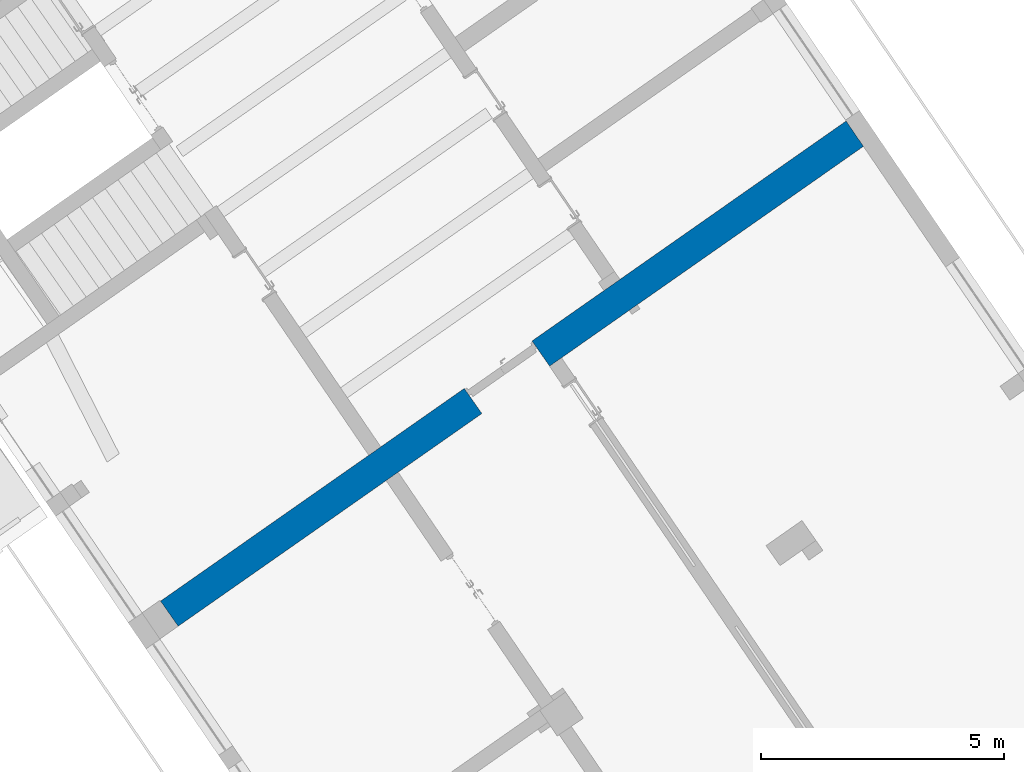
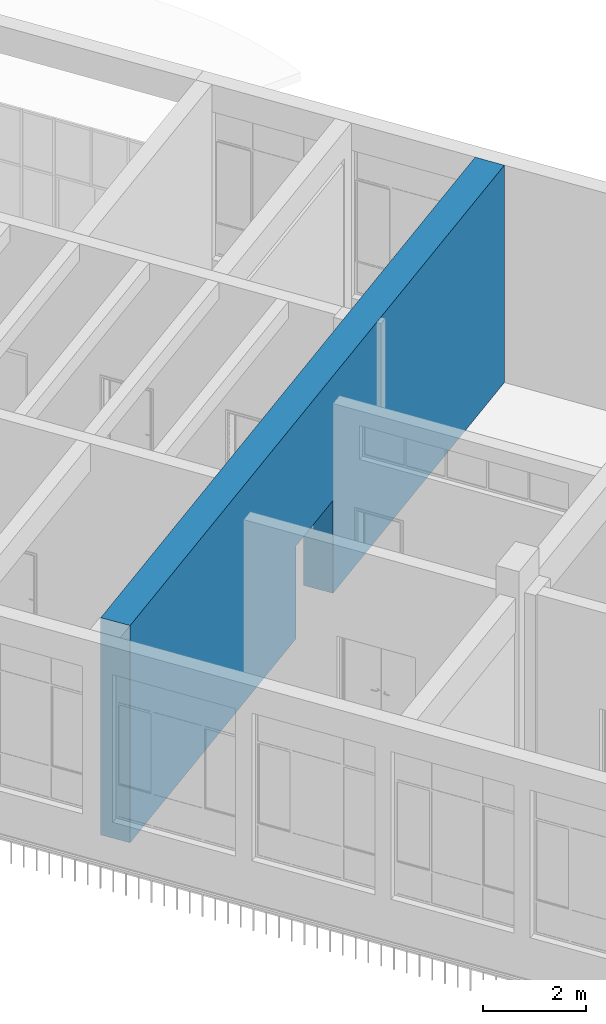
# One storey, part 70 of 157: 1 wall, 1 opening.
"""IFC2X3 building model written with IfcOpenShell, lengths in millimetres."""

from ifc_helpers import new_model, entity, si_unit, converted_unit, derived_unit, direction, frame, frame_2d, origin, place, context, subcontext, project, spatial, polyline, rectangle, outline, extrude, material, layer, layer_set, layer_usage, type_object, element, save


model = new_model("IFC2X3")

# Units and contexts
model_context = context("Model", 3, precision=0.01, world=origin(), true_north=direction((6.123031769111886e-17, 1.0)))
body_context = subcontext(model_context, "Body", "Model", "MODEL_VIEW")
ifc_project = project(units=[si_unit("LENGTHUNIT", "METRE", prefix="MILLI"), si_unit("AREAUNIT", "SQUARE_METRE"), si_unit("VOLUMEUNIT", "CUBIC_METRE"), converted_unit("PLANEANGLEUNIT", "DEGREE", entity("IfcRatioMeasure", 0.017453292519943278), si_unit("PLANEANGLEUNIT", "RADIAN"), dimensions=[0, 0, 0, 0, 0, 0, 0]), si_unit("MASSUNIT", "GRAM", prefix="KILO"), derived_unit("MASSDENSITYUNIT", [(si_unit("MASSUNIT", "GRAM", prefix="KILO"), 1), (si_unit("LENGTHUNIT", "METRE"), -3)]), derived_unit("MOMENTOFINERTIAUNIT", [(si_unit("LENGTHUNIT", "METRE"), 4)]), si_unit("TIMEUNIT", "SECOND"), si_unit("FREQUENCYUNIT", "HERTZ"), si_unit("THERMODYNAMICTEMPERATUREUNIT", "DEGREE_CELSIUS"), derived_unit("THERMALTRANSMITTANCEUNIT", [(si_unit("MASSUNIT", "GRAM", prefix="KILO"), 1), (si_unit("THERMODYNAMICTEMPERATUREUNIT", "KELVIN"), -1), (si_unit("TIMEUNIT", "SECOND"), -3)]), derived_unit("THERMALCONDUCTANCEUNIT", [(si_unit("MASSUNIT", "GRAM", prefix="KILO"), 1), (si_unit("LENGTHUNIT", "METRE"), 1), (si_unit("THERMODYNAMICTEMPERATUREUNIT", "KELVIN"), -1), (si_unit("TIMEUNIT", "SECOND"), -3)]), derived_unit("VOLUMETRICFLOWRATEUNIT", [(si_unit("LENGTHUNIT", "METRE"), 3), (si_unit("TIMEUNIT", "SECOND"), -1)]), derived_unit("MASSFLOWRATEUNIT", [(si_unit("MASSUNIT", "GRAM", prefix="KILO"), 1), (si_unit("TIMEUNIT", "SECOND"), -1)]), derived_unit("ROTATIONALFREQUENCYUNIT", [(si_unit("TIMEUNIT", "SECOND"), -1)]), si_unit("ELECTRICCURRENTUNIT", "AMPERE"), si_unit("ELECTRICVOLTAGEUNIT", "VOLT"), si_unit("POWERUNIT", "WATT"), converted_unit("FORCEUNIT", "KIP", entity("IfcRatioMeasure", 2.088543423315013e-05), si_unit("FORCEUNIT", "NEWTON"), dimensions=[1, 1, -2, 0, 0, 0, 0]), si_unit("ILLUMINANCEUNIT", "LUX"), si_unit("LUMINOUSFLUXUNIT", "LUMEN"), si_unit("LUMINOUSINTENSITYUNIT", "CANDELA"), derived_unit("USERDEFINED", [(si_unit("MASSUNIT", "GRAM", prefix="KILO"), -1), (si_unit("LENGTHUNIT", "METRE"), -2), (si_unit("TIMEUNIT", "SECOND"), 3), (si_unit("LUMINOUSFLUXUNIT", "LUMEN"), 1)]), derived_unit("USERDEFINED", [(si_unit("MASSUNIT", "GRAM", prefix="KILO"), 1), (si_unit("LENGTHUNIT", "METRE"), 3), (si_unit("TIMEUNIT", "SECOND"), -3), (si_unit("ELECTRICCURRENTUNIT", "AMPERE"), -2)]), derived_unit("USERDEFINED", [(si_unit("LENGTHUNIT", "METRE"), 2), (si_unit("TIMEUNIT", "SECOND"), -2)]), derived_unit("SOUNDPOWERUNIT", [(si_unit("MASSUNIT", "GRAM", prefix="KILO"), 1), (si_unit("LENGTHUNIT", "METRE"), 2), (si_unit("TIMEUNIT", "SECOND"), -3)]), derived_unit("SOUNDPRESSUREUNIT", [(si_unit("MASSUNIT", "GRAM", prefix="KILO"), 1), (si_unit("LENGTHUNIT", "METRE"), -1), (si_unit("TIMEUNIT", "SECOND"), -2)]), derived_unit("LINEARVELOCITYUNIT", [(si_unit("LENGTHUNIT", "METRE"), 1), (si_unit("TIMEUNIT", "SECOND"), -1)]), si_unit("PRESSUREUNIT", "PASCAL"), derived_unit("USERDEFINED", [(si_unit("LENGTHUNIT", "METRE"), -2), (si_unit("MASSUNIT", "GRAM", prefix="KILO"), 1), (si_unit("TIMEUNIT", "SECOND"), -2)]), derived_unit("LINEARFORCEUNIT", [(si_unit("MASSUNIT", "GRAM", prefix="KILO"), 1), (si_unit("LENGTHUNIT", "METRE"), 1), (si_unit("TIMEUNIT", "SECOND"), -2), (si_unit("LENGTHUNIT", "METRE"), -1)]), derived_unit("PLANARFORCEUNIT", [(si_unit("MASSUNIT", "GRAM", prefix="KILO"), 1), (si_unit("LENGTHUNIT", "METRE"), 1), (si_unit("TIMEUNIT", "SECOND"), -2), (si_unit("LENGTHUNIT", "METRE"), -2)]), derived_unit("SPECIFICHEATCAPACITYUNIT", [(si_unit("LENGTHUNIT", "METRE"), 2), (si_unit("TIMEUNIT", "SECOND"), -2), (si_unit("THERMODYNAMICTEMPERATUREUNIT", "KELVIN"), -1)]), derived_unit("VAPORPERMEABILITYUNIT", [(si_unit("TIMEUNIT", "SECOND"), 1), (si_unit("LENGTHUNIT", "METRE"), -1)]), derived_unit("DYNAMICVISCOSITYUNIT", [(si_unit("MASSUNIT", "GRAM", prefix="KILO"), 1), (si_unit("LENGTHUNIT", "METRE"), -1), (si_unit("TIMEUNIT", "SECOND"), -1)]), derived_unit("THERMALEXPANSIONCOEFFICIENTUNIT", [(si_unit("THERMODYNAMICTEMPERATUREUNIT", "KELVIN"), -1)])], contexts=[model_context])

# Site, building, storey
site_placement = place(None, frame((0.0, 0.0, 0.0), z_axis=(0.0, 0.0, 1.0), x_axis=(0.8191520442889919, 0.5735764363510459, 0.0)))
site = spatial("IfcSite", under=ifc_project, at=site_placement, Name="Default", CompositionType="ELEMENT")
building_placement = place(site_placement, origin())
building = spatial("IfcBuilding", under=site, at=building_placement, CompositionType="ELEMENT")
storey_placement = place(building_placement, origin())
storey = spatial("IfcBuildingStorey", under=building, at=storey_placement, Name="1.EG +0.00", CompositionType="ELEMENT", Elevation=-4.331468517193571e-12)

# Wall, opening
ifc_material = material(Name="Analytical Wall Surface_CJC")
ifc_layer = layer(ifc_material, 630.0)
ifc_layer_set = layer_set([ifc_layer], Name="Basic Wall:Wand_Innen_63")
ifc_layer_usage = layer_usage(ifc_layer_set, "AXIS2", "NEGATIVE", 315.0)
wall_type = type_object("IfcWallType", Name="Basic Wall:Wand_Innen_63", PredefinedType="STANDARD", material=ifc_layer_set)
wall_placement = place(storey_placement, frame((-222448.7629193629, 103536.35891435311, 0.0)))
wall = element("IfcWallStandardCase", 1, at=wall_placement, inside=storey, type_object=wall_type, material=ifc_layer_usage, Name="Basic Wall:Wand_Innen_63", ObjectType="Basic Wall:Wand_Innen_63", context=body_context, shape_type="SweptSolid", body=[
    extrude(outline(polyline([(0.0, -315.0), (11317.650877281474, -315.0), (11517.667083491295, -315.0), (17193.776572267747, -315.0), (17201.781693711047, 315.0), (11525.671167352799, 315.0), (11125.638754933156, 315.0), (5525.542685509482, 315.0), (5225.518376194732, 315.0), (0.0, 315.0), (0.0, -315.0)])), origin(), (0.0, 0.0, 1.0), 5150.000000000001),
])
opening_placement = place(wall_placement, frame((7620.0, -315.0, 0.0)))
element("IfcOpeningElement", 2, at=opening_placement, cuts=wall, Name="M_Door-Passage-Double-Flush:160x210:1", ObjectType="Opening", context=body_context, shape_type="SweptSolid", body=[
    extrude(rectangle(XDim=2200.0, YDim=1699.9999999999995, at=frame_2d((1100.0, 849.9999999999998), x_axis=(1.0, 0.0))), frame((0.0, 0.0, 0.0), z_axis=(0.0, 1.0, 0.0), x_axis=(0.0, 0.0, 1.0)), (0.0, 0.0, 1.0), 630.0),
])

save(model, "model.ifc")
